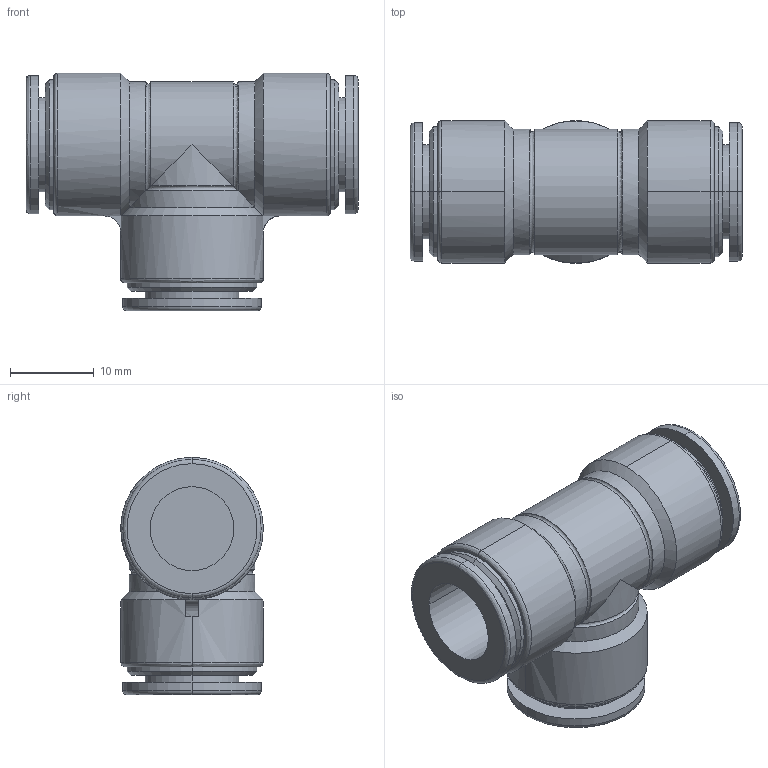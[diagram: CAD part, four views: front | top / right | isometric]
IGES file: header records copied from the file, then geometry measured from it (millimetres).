
Global section: file name: No Iges File Name specified; native system: AutoDesk Inventor R11.0; preprocessor: AutoDesk Inventor Iges Exporter R11.0; author: No Author specified; organization: No Organization specified; date: 20120321.162316; units: millimetre
Bounding box: 39.6 x 17 x 28.3 mm (x, y, z)
Volume: 7182 mm3; surface area: 5229.7 mm2
Topology: 1 solids, 1 shells, 92 faces, 216 edges, 138 vertices
Faces by surface type: bspline 47, cylinder 16, plane 14, torus 6, cone 5, revolution 4
